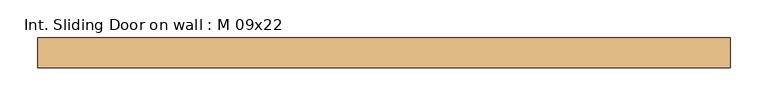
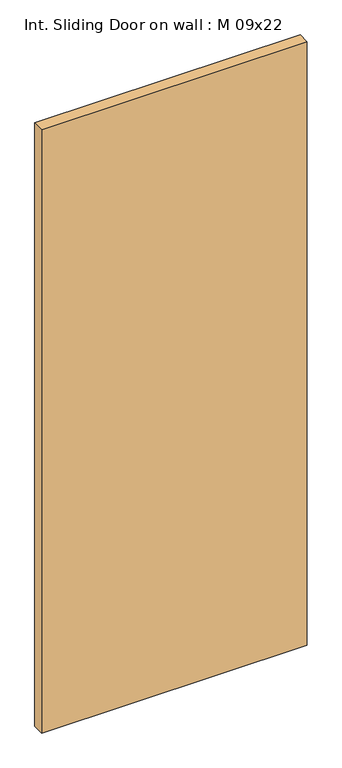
"""IFC4 building model written with IfcOpenShell, lengths in millimetres: door geometry, Int. Sliding Door on wall : M 09x22."""

from ifc_helpers import new_model, si_unit, frame, origin, place, context, project, spatial, polyline, outline, extrude, source, transform, mapped, element, save


def int_sliding_door_on_wall_m_09x22_47a3ad10(model_context):
    return source(origin(), model_context, "Body", "SweptSolid", [
        extrude(outline(polyline([(-1300.0, 160.041971), (-380.0, 160.041971), (-380.0, 120.041971), (-1300.0, 120.041971), (-1300.0, 160.041971)])), frame((0.0, 0.0, 10.0), z_axis=(0.0, 0.0, 1.0), x_axis=(1.0, 0.0, 0.0)), (0.0, 0.0, 1.0), 2210.0),
    ])


if __name__ == "__main__":
    model = new_model("IFC4")
    model_context = context("Model", 3, world=origin())
    ifc_project = project(units=[si_unit("LENGTHUNIT", "METRE", prefix="MILLI")], contexts=[model_context])
    site = spatial("IfcSite", under=ifc_project)
    building = spatial("IfcBuilding", under=site)
    placement = place(None, origin())
    int_sliding_door_on_wall_m_09x22_shape = int_sliding_door_on_wall_m_09x22_47a3ad10(model_context)
    element("IfcDoor", 1, ObjectType="Int. Sliding Door on wall : M 09x22", at=placement, inside=building, context=model_context, shape_type="MappedRepresentation", body=[
        mapped(int_sliding_door_on_wall_m_09x22_shape, transform((0.0, 0.0, 0.0), x_axis=(1.0, 0.0, 0.0), y_axis=(0.0, 1.0, 0.0), z_axis=(0.0, 0.0, 1.0))),
    ])
    save(model, "model.ifc")
